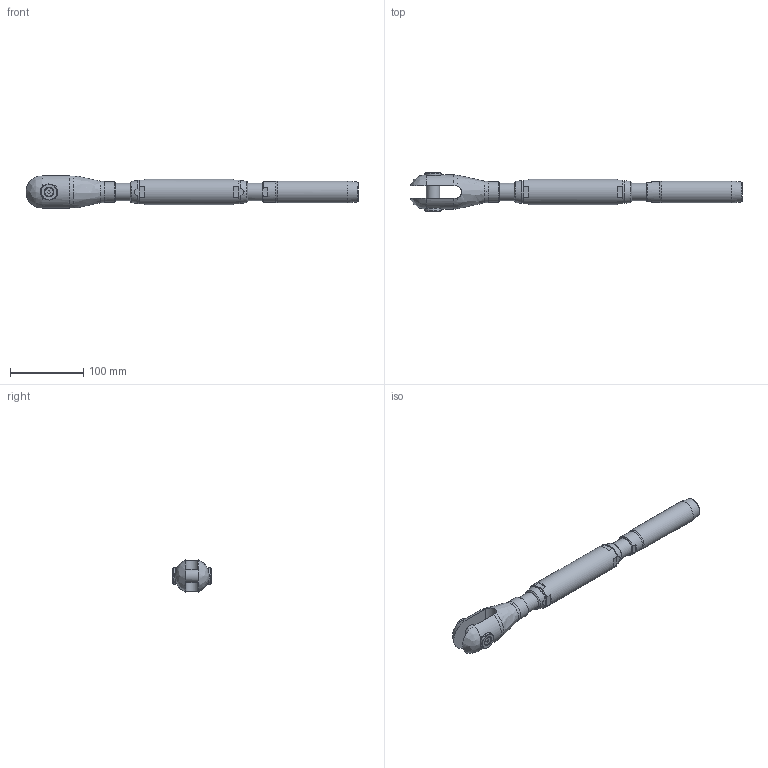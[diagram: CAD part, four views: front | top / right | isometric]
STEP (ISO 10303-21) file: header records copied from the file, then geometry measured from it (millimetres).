
FILE_DESCRIPTION(/* description */ (''),/* implementation_level */ '2;1');
FILE_NAME(/* name */ 'TBC 12_S355',/* time_stamp */ '2023-05-23T18:17:31+02:00',/* author */ (''),/* organization */ (''),/* preprocessor_version */ 'ST-DEVELOPER v16.5',/* originating_system */ 'Rhino 7.22',/* authorisation */ '');
FILE_SCHEMA (('CONFIG_CONTROL_DESIGN'));
Length unit declared in the file: millimetre
Products named in the file (1): Document
Bounding box: 452.89 x 51.99 x 43.82 mm (x, y, z)
Volume: 347519.7 mm3; surface area: 84536.6 mm2
Topology: 10 solids, 10 shells, 141 faces, 384 edges, 265 vertices
Faces by surface type: plane 65, bspline 41, cylinder 35
Full cylindrical faces by diameter (mm): 4.917 x2, 6 x2, 6.5 x2, 11.34 x2, 18 x1, 19 x2, 20.752 x4, 22 x2, 24 x2, 28 x1, 28.6 x2, 30 x1, 35 x1
Entity records: 5902 total; most frequent: CARTESIAN_POINT 3466, ORIENTED_EDGE 760, EDGE_CURVE 380, VERTEX_POINT 265, EDGE_LOOP 161, B_SPLINE_CURVE_WITH_KNOTS 158, ADVANCED_FACE 141, FACE_OUTER_BOUND 141
